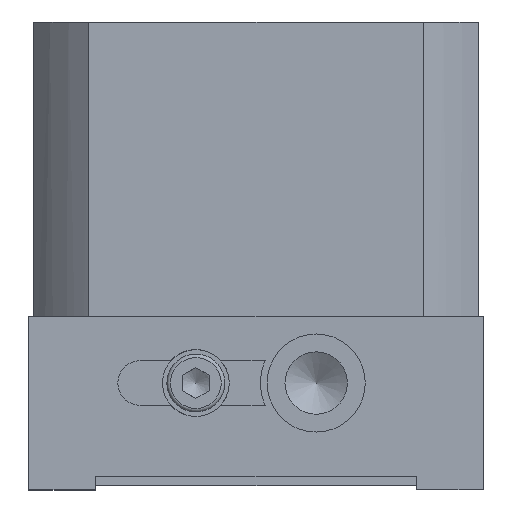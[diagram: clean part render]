
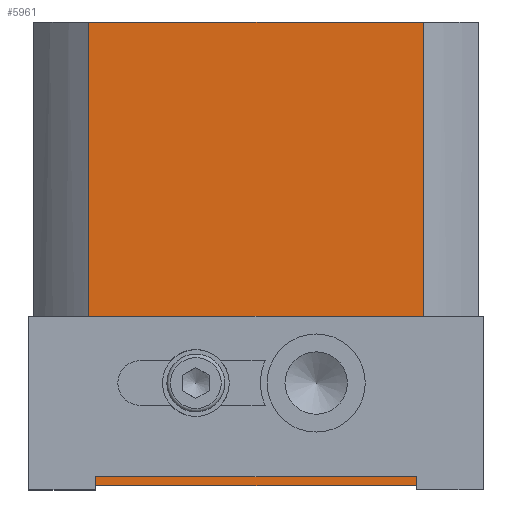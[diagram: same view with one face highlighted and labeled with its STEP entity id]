
A CAD part, left-side view. The second image highlights one B-rep face of the part: STEP entity #5961.
In plain terms, the highlighted planar face has unit normal (-1, 0, 0).
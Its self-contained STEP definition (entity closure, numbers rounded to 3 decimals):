
#3621=CARTESIAN_POINT('',(12.,75.5,-15.0));
#3622=VERTEX_POINT('',#3621);
#3623=CARTESIAN_POINT('',(12.,75.5,-26.0));
#3624=DIRECTION('',(-1.0,0.0,0.0));
#3625=DIRECTION('',(0.0,1.0,0.0));
#3626=AXIS2_PLACEMENT_3D('',#3623,#3624,#3625);
#3627=CIRCLE('',#3626,11.0);
#3628=EDGE_CURVE('',#3622,#3622,#3627,.T.);
#4319=CARTESIAN_POINT('',(12.,24.5,-49.));
#4320=VERTEX_POINT('',#4319);
#4328=CARTESIAN_POINT('',(12.,99.5,-49.));
#4329=VERTEX_POINT('',#4328);
#4330=CARTESIAN_POINT('',(12.,99.5,-49.));
#4331=DIRECTION('',(0.0,-1.0,0.0));
#4332=VECTOR('',#4331,75.);
#4333=LINE('',#4330,#4332);
#4334=EDGE_CURVE('',#4329,#4320,#4333,.T.);
#4937=CARTESIAN_POINT('',(12.,99.5,55.0));
#4938=VERTEX_POINT('',#4937);
#4946=CARTESIAN_POINT('',(12.,24.5,55.0));
#4947=VERTEX_POINT('',#4946);
#4948=CARTESIAN_POINT('',(12.,99.5,55.0));
#4949=DIRECTION('',(0.0,-1.0,0.0));
#4950=VECTOR('',#4949,75.0);
#4951=LINE('',#4948,#4950);
#4952=EDGE_CURVE('',#4938,#4947,#4951,.T.);
#5823=CARTESIAN_POINT('',(12.,24.5,55.0));
#5824=DIRECTION('',(0.0,0.0,-1.0));
#5825=VECTOR('',#5824,104.0);
#5826=LINE('',#5823,#5825);
#5827=EDGE_CURVE('',#4947,#4320,#5826,.T.);
#5923=CARTESIAN_POINT('',(12.,99.5,55.0));
#5924=DIRECTION('',(0.0,0.0,-1.0));
#5925=VECTOR('',#5924,104.0);
#5926=LINE('',#5923,#5925);
#5927=EDGE_CURVE('',#4938,#4329,#5926,.T.);
#5936=CARTESIAN_POINT('',(12.,99.5,55.0));
#5937=DIRECTION('',(-1.0,0.0,0.0));
#5938=DIRECTION('',(0.0,0.0,1.0));
#5939=AXIS2_PLACEMENT_3D('',#5936,#5937,#5938);
#5940=PLANE('',#5939);
#5941=ORIENTED_EDGE('',*,*,#5827,.F.);
#5942=ORIENTED_EDGE('',*,*,#4952,.F.);
#5943=ORIENTED_EDGE('',*,*,#5927,.T.);
#5944=ORIENTED_EDGE('',*,*,#4334,.T.);
#5945=EDGE_LOOP('',(#5941,#5942,#5943,#5944));
#5946=FACE_OUTER_BOUND('',#5945,.T.);
#5947=CARTESIAN_POINT('',(12.,48.5,-15.0));
#5948=VERTEX_POINT('',#5947);
#5949=CARTESIAN_POINT('',(12.,48.5,-26.));
#5950=DIRECTION('',(-1.0,0.0,0.0));
#5951=DIRECTION('',(0.0,-1.0,0.0));
#5952=AXIS2_PLACEMENT_3D('',#5949,#5950,#5951);
#5953=CIRCLE('',#5952,11.0);
#5954=EDGE_CURVE('',#5948,#5948,#5953,.T.);
#5955=ORIENTED_EDGE('',*,*,#5954,.F.);
#5956=EDGE_LOOP('',(#5955));
#5957=FACE_BOUND('',#5956,.T.);
#5958=ORIENTED_EDGE('',*,*,#3628,.F.);
#5959=EDGE_LOOP('',(#5958));
#5960=FACE_BOUND('',#5959,.T.);
#5961=ADVANCED_FACE('',(#5946,#5957,#5960),#5940,.T.);
